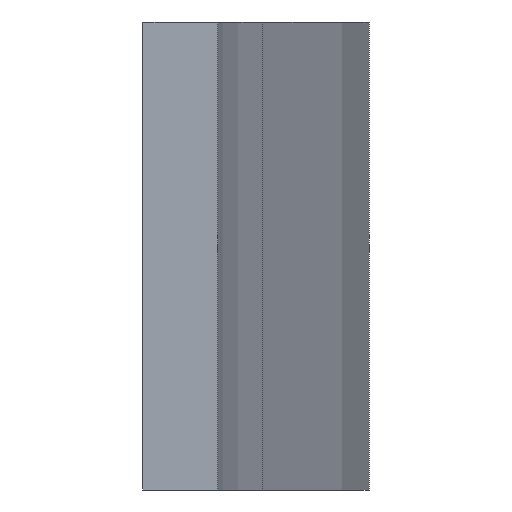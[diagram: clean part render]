
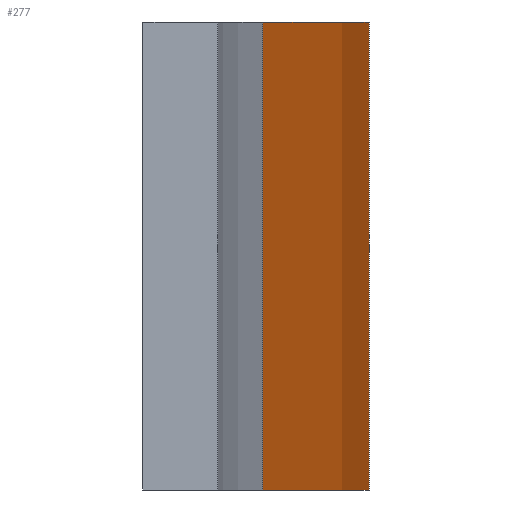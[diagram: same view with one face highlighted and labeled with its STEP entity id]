
A CAD part, left-side view. The second image highlights one B-rep face of the part: STEP entity #277.
In plain terms, the highlighted cylindrical face has radius 118.1 mm (diameter 236.2 mm), a partial arc.
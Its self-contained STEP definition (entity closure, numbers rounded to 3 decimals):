
#125 = VERTEX_POINT( '', #343 );
#185 = EDGE_CURVE( '', #243, #321, #413, .T. );
#215 = EDGE_CURVE( '', #321, #125, #446, .T. );
#243 = VERTEX_POINT( '', #476 );
#261 = VERTEX_POINT( '', #497 );
#277 = ADVANCED_FACE( '', ( #514 ), #515, .T. );
#301 = EDGE_CURVE( '', #243, #261, #540, .T. );
#321 = VERTEX_POINT( '', #561 );
#323 = EDGE_CURVE( '', #261, #125, #563, .T. );
#343 = CARTESIAN_POINT( '', ( 111.643, -6.406, -12.5 ) );
#413 = CIRCLE( '', #669, 118.1 );
#446 = LINE( '', #710, #711 );
#476 = CARTESIAN_POINT( '', ( 39.261, -6.406, 12.5 ) );
#497 = CARTESIAN_POINT( '', ( 39.261, -6.406, -12.5 ) );
#514 = FACE_OUTER_BOUND( '', #802, .T. );
#515 = CYLINDRICAL_SURFACE( '', #803, 118.1 );
#540 = LINE( '', #839, #840 );
#561 = CARTESIAN_POINT( '', ( 111.643, -6.406, 12.5 ) );
#563 = CIRCLE( '', #868, 118.1 );
#669 = AXIS2_PLACEMENT_3D( '', #972, #973, #974 );
#710 = CARTESIAN_POINT( '', ( 111.643, -6.406, 12.5 ) );
#711 = VECTOR( '', #1013, 1. );
#802 = EDGE_LOOP( '', ( #1099, #1100, #1101, #1102 ) );
#803 = AXIS2_PLACEMENT_3D( '', #1103, #1104, #1105 );
#839 = CARTESIAN_POINT( '', ( 39.261, -6.406, 12.5 ) );
#840 = VECTOR( '', #1119, 1. );
#868 = AXIS2_PLACEMENT_3D( '', #1134, #1135, #1136 );
#972 = CARTESIAN_POINT( '', ( 75.452, 106.013, 12.5 ) );
#973 = DIRECTION( '', ( 0., 0., 1. ) );
#974 = DIRECTION( '', ( -0.306, -0.952, 0. ) );
#1013 = DIRECTION( '', ( 0., 0., -1. ) );
#1099 = ORIENTED_EDGE( '', *, *, #323, .T. );
#1100 = ORIENTED_EDGE( '', *, *, #215, .F. );
#1101 = ORIENTED_EDGE( '', *, *, #185, .F. );
#1102 = ORIENTED_EDGE( '', *, *, #301, .T. );
#1103 = CARTESIAN_POINT( '', ( 75.452, 106.013, 12.5 ) );
#1104 = DIRECTION( '', ( 0., 0., 1. ) );
#1105 = DIRECTION( '', ( -0.306, -0.952, 0. ) );
#1119 = DIRECTION( '', ( 0., 0., -1. ) );
#1134 = CARTESIAN_POINT( '', ( 75.452, 106.013, -12.5 ) );
#1135 = DIRECTION( '', ( 0., 0., 1. ) );
#1136 = DIRECTION( '', ( -0.306, -0.952, 0. ) );
